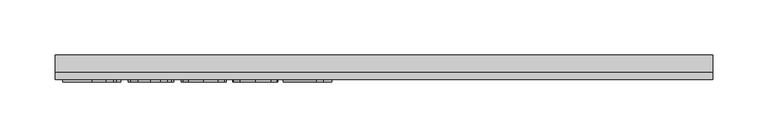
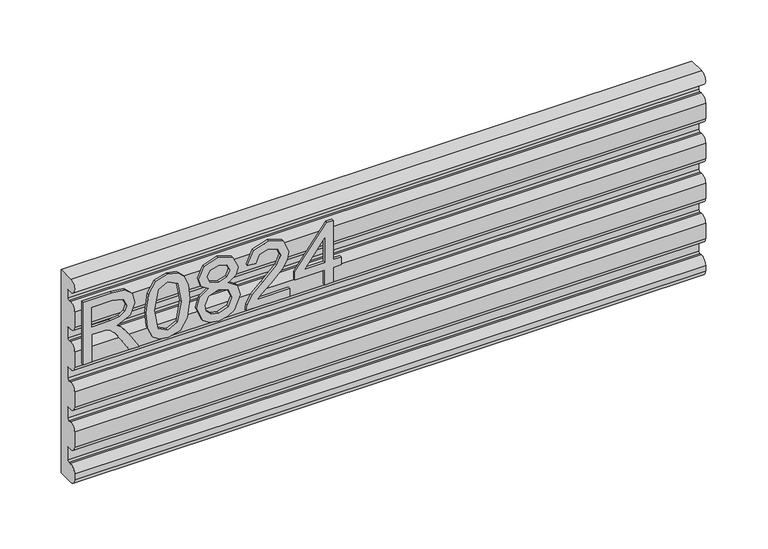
"""IFC4 building model written with IfcOpenShell, lengths in millimetres: furniture geometry."""

from ifc_helpers import new_model, si_unit, point, frame, frame_2d, origin, place, context, project, spatial, polyline, circle_curve, trimmed, segment, composite_curve, outline, extrude, source, transform, mapped, element, save


def furniture_deab35e4(model_context):
    return source(origin(), model_context, "Body", "SweptSolid", [
        extrude(outline(polyline([(882.65, -291.6115385), (882.65, -283.7961538), (910.0038462, -283.7961538), (910.0038462, -274.3627404), (909.7290865, -269.8292067), (908.2408053, -266.1123197), (904.188101, -261.9832933), (895.6094952, -256.1064904), (882.65, -247.9705529), (882.65, -238.8882212), (899.5935096, -249.3138221), (907.6378606, -255.6485577), (910.9807692, -260.0905048), (916.7965144, -247.001262), (928.0616587, -242.7653846), (937.5179688, -245.3221755), (943.4863582, -252.160637), (945.1730769, -264.6698317), (945.1730769, -291.6115385), (882.65, -291.6115385)]), holes=[polyline([(917.8192308, -283.7961538), (937.3576923, -283.7961538), (937.3576923, -264.3340144), (934.6558894, -253.8855168), (927.7716346, -250.5807692), (922.4672476, -252.3132812), (918.9259014, -257.3810697), (917.8192308, -266.303125), (917.8192308, -283.7961538)])]), frame((0.0, -24.60625, 0.0), z_axis=(0.0, 1.0, 0.0), x_axis=(0.0, 0.0, 1.0)), (0.0, 0.0, 1.0), 2.38125),
        extrude(outline(polyline([(913.4078125, -232.0192308), (898.200631, -230.4622596), (887.6262019, -225.7913462), (883.1613582, -219.6245192), (881.6730769, -211.5038462), (885.0999399, -200.0631611), (895.495012, -193.2628606), (913.4078125, -190.9884615), (928.0998197, -192.4080529), (937.3500601, -196.0715144), (943.1581731, -202.3757212), (945.1730769, -211.5038462), (941.7691106, -222.898738), (931.3969351, -229.7219351), (913.4078125, -232.0192308)]), holes=[polyline([(913.4230769, -224.2038462), (933.1752404, -220.4182692), (937.3576923, -211.5954327), (932.6104567, -202.3451923), (913.4230769, -198.8038462), (894.0296274, -202.4673077), (889.4884615, -211.5038462), (894.014363, -220.5403846), (913.4230769, -224.2038462)])]), frame((0.0, -24.60625, 0.0), z_axis=(0.0, 1.0, 0.0), x_axis=(0.0, 0.0, 1.0)), (0.0, 0.0, 1.0), 2.38125),
        extrude(outline(polyline([(917.0865385, -172.7627404), (911.4081731, -181.1887019), (901.0588942, -184.15), (887.2216947, -178.5021635), (883.0602314, -171.9613582), (881.6730769, -163.6346154), (883.0545072, -155.3078726), (887.1987981, -148.7670673), (900.8451923, -143.1192308), (910.9578726, -145.9660457), (917.0865385, -154.277524), (921.9177284, -147.3551082), (929.2828125, -145.0730769), (940.5479567, -150.2019231), (945.1730769, -163.7414663), (940.6548077, -177.1588942), (929.4965144, -182.1961538), (921.940625, -179.8835937), (917.0865385, -172.7627404)]), holes=[polyline([(901.3336538, -176.3346154), (909.6222356, -173.0298678), (912.9346154, -163.8330529), (909.5764423, -154.3691106), (901.0894231, -150.9346154), (892.7626803, -154.2622596), (889.4884615, -163.5735577), (891.0454327, -170.4120192), (895.4492188, -175.0295072), (901.3336538, -176.3346154)]), polyline([(929.2675481, -174.3807692), (934.9764423, -171.5644832), (937.3576923, -163.6346154), (934.9230168, -155.7276442), (928.9164663, -152.8884615), (923.1159856, -155.6360577), (920.75, -163.5430288), (923.13125, -171.6102764), (929.2675481, -174.3807692)])]), frame((0.0, -24.60625, 0.0), z_axis=(0.0, 1.0, 0.0), x_axis=(0.0, 0.0, 1.0)), (0.0, 0.0, 1.0), 2.38125),
        extrude(outline(polyline([(890.4653846, -96.2269231), (890.4653846, -126.9236779), (894.4417668, -123.3975962), (901.9594952, -114.406851), (912.667488, -103.2103966), (920.3302284, -98.5929087), (927.7411058, -97.2038462), (940.1663462, -102.3555889), (945.1730769, -116.3454327), (940.6700721, -130.2894832), (927.5884615, -136.2807692), (926.6115385, -128.4653846), (934.5032452, -125.1759014), (937.3576923, -116.5133413), (934.4345553, -108.201863), (927.2679087, -105.0192308), (918.4145433, -108.3926683), (905.3939904, -121.8864183), (896.3345553, -131.6709135), (888.0383413, -136.418149), (882.65, -137.2576923), (882.65, -96.2269231), (890.4653846, -96.2269231)])), frame((0.0, -24.60625, 0.0), z_axis=(0.0, 1.0, 0.0), x_axis=(0.0, 0.0, 1.0)), (0.0, 0.0, 1.0), 2.38125),
        extrude(outline(polyline([(882.65, -63.0115385), (882.65, -55.1961538), (897.3038462, -55.1961538), (897.3038462, -47.3807692), (905.1192308, -47.3807692), (905.1192308, -55.1961538), (944.1961538, -55.1961538), (944.1961538, -61.0576923), (905.1192308, -91.3423077), (897.3038462, -91.3423077), (897.3038462, -63.0115385), (882.65, -63.0115385)]), holes=[polyline([(905.1192308, -63.0115385), (905.1192308, -81.7257212), (929.2675481, -63.0115385), (905.1192308, -63.0115385)])]), frame((0.0, -24.60625, 0.0), z_axis=(0.0, 1.0, 0.0), x_axis=(0.0, 0.0, 1.0)), (0.0, 0.0, 1.0), 2.38125),
        extrude(outline(composite_curve([segment(polyline([(-15.8760163, 965.1962603), (0.0, 965.1987579), (0.0, 762.0024959), (-15.875, 762.0024959)]), True, "CONTINUOUS"), segment(trimmed(circle_curve(frame_2d((-15.875, 768.3499997)), 6.3475038), [point((-15.875, 762.0024959))], [point((-22.2225037, 768.3499997))], False, "CARTESIAN"), True, "CONTINUOUS"), segment(polyline([(-22.2225037, 768.3499997), (-22.2225037, 774.1565144)]), True, "CONTINUOUS"), segment(trimmed(circle_curve(frame_2d((-15.8749436, 774.1565144)), 6.3475601), [point((-22.2225037, 774.1565144))], [point((-15.0857075, 780.4548178))], False, "CARTESIAN"), True, "CONTINUOUS"), segment(trimmed(circle_curve(frame_2d((-1.1337042, 863.6935017)), 84.3998631), [point((-15.0857075, 780.4548178))], [point((-12.9059563, 780.1186791))], True, "CARTESIAN"), True, "CONTINUOUS"), segment(trimmed(circle_curve(frame_2d((-12.700446, 781.6924586)), 1.5871409), [point((-12.9059563, 780.1186791))], [point((-11.1133051, 781.6924586))], True, "CARTESIAN"), True, "CONTINUOUS"), segment(polyline([(-11.1133051, 781.6924586), (-11.1133051, 793.7069593)]), True, "CONTINUOUS"), segment(trimmed(circle_curve(frame_2d((-12.6993283, 793.7069593)), 1.5860232), [point((-11.1133051, 793.7069593))], [point((-12.9060069, 795.2794584))], True, "CARTESIAN"), True, "CONTINUOUS"), segment(trimmed(circle_curve(frame_2d((-1.1352938, 711.7058353)), 84.3984607), [point((-12.9060069, 795.2794584))], [point((-15.0903111, 794.942592))], True, "CARTESIAN"), True, "CONTINUOUS"), segment(trimmed(circle_curve(frame_2d((-15.8834296, 801.2469395)), 6.3540408), [point((-15.0903111, 794.942592))], [point((-22.225, 800.8490464))], False, "CARTESIAN"), True, "CONTINUOUS"), segment(polyline([(-22.225, 800.8490464), (-22.225, 816.2587238)]), True, "CONTINUOUS"), segment(trimmed(circle_curve(frame_2d((-15.8833926, 815.8608997)), 6.3540734), [point((-22.225, 816.2587238))], [point((-15.0903341, 822.1652876))], False, "CARTESIAN"), True, "CONTINUOUS"), segment(trimmed(circle_curve(frame_2d((-1.1353844, 905.4020955)), 84.3985), [point((-15.0903341, 822.1652876))], [point((-12.9062753, 821.8284577))], True, "CARTESIAN"), True, "CONTINUOUS"), segment(trimmed(circle_curve(frame_2d((-12.6998122, 823.4006216)), 1.5856628), [point((-12.9062753, 821.8284577))], [point((-11.1141494, 823.4006216))], True, "CARTESIAN"), True, "CONTINUOUS"), segment(polyline([(-11.1141494, 823.4006216), (-11.1141494, 833.7966127)]), True, "CONTINUOUS"), segment(trimmed(circle_curve(frame_2d((-12.6998093, 833.7966127)), 1.5856599), [point((-11.1141494, 833.7966127))], [point((-12.9062754, 835.3687733))], True, "CARTESIAN"), True, "CONTINUOUS"), segment(trimmed(circle_curve(frame_2d((-1.1353888, 751.7951397)), 84.3984953), [point((-12.9062754, 835.3687733))], [point((-15.0903465, 835.0319415))], True, "CARTESIAN"), True, "CONTINUOUS"), segment(trimmed(circle_curve(frame_2d((-15.8834158, 841.3363673)), 6.3541124), [point((-15.0903465, 835.0319415))], [point((-22.2250421, 840.9382203))], False, "CARTESIAN"), True, "CONTINUOUS"), segment(polyline([(-22.2250421, 840.9382203), (-22.2250421, 856.3483319)]), True, "CONTINUOUS"), segment(trimmed(circle_curve(frame_2d((-15.8834158, 855.9501848)), 6.3541124), [point((-22.2250421, 856.3483319))], [point((-15.0903468, 862.2546107))], False, "CARTESIAN"), True, "CONTINUOUS"), segment(trimmed(circle_curve(frame_2d((-1.1353891, 945.4914132)), 84.398496), [point((-15.0903468, 862.2546107))], [point((-12.9062764, 861.9177789))], True, "CARTESIAN"), True, "CONTINUOUS"), segment(trimmed(circle_curve(frame_2d((-12.6998106, 863.4899388)), 1.5856591), [point((-12.9062764, 861.9177789))], [point((-11.1141515, 863.4899388))], True, "CARTESIAN"), True, "CONTINUOUS"), segment(polyline([(-11.1141515, 863.4899388), (-11.1141515, 873.8860943)]), True, "CONTINUOUS"), segment(trimmed(circle_curve(frame_2d((-12.6998106, 873.8860943)), 1.5856591), [point((-11.1141515, 873.8860943))], [point((-12.9062762, 875.4582542))], True, "CARTESIAN"), True, "CONTINUOUS"), segment(trimmed(circle_curve(frame_2d((-1.135389, 791.8846199)), 84.398496), [point((-12.9062762, 875.4582542))], [point((-15.0903467, 875.1214224))], True, "CARTESIAN"), True, "CONTINUOUS"), segment(trimmed(circle_curve(frame_2d((-15.8834159, 881.4258482)), 6.3541123), [point((-15.0903467, 875.1214224))], [point((-22.225042, 881.0277013))], False, "CARTESIAN"), True, "CONTINUOUS"), segment(polyline([(-22.225042, 881.0277013), (-22.225042, 896.4379807)]), True, "CONTINUOUS"), segment(trimmed(circle_curve(frame_2d((-15.8834159, 896.0398338)), 6.3541123), [point((-22.225042, 896.4379807))], [point((-15.0903468, 902.3442596))], False, "CARTESIAN"), True, "CONTINUOUS"), segment(trimmed(circle_curve(frame_2d((-1.1353891, 985.5810621)), 84.3984961), [point((-15.0903468, 902.3442596))], [point((-12.9062764, 902.0074278))], True, "CARTESIAN"), True, "CONTINUOUS"), segment(trimmed(circle_curve(frame_2d((-12.6998107, 903.5795876)), 1.585659), [point((-12.9062764, 902.0074278))], [point((-11.1141517, 903.5795876))], True, "CARTESIAN"), True, "CONTINUOUS"), segment(polyline([(-11.1141517, 903.5795876), (-11.1141517, 913.9755748)]), True, "CONTINUOUS"), segment(trimmed(circle_curve(frame_2d((-12.6998103, 913.9755748)), 1.5856586), [point((-11.1141517, 913.9755748))], [point((-12.906276, 915.5477342))], True, "CARTESIAN"), True, "CONTINUOUS"), segment(trimmed(circle_curve(frame_2d((-1.1353891, 831.9741004)), 84.3984955), [point((-12.906276, 915.5477342))], [point((-15.0903471, 915.2109023))], True, "CARTESIAN"), True, "CONTINUOUS"), segment(trimmed(circle_curve(frame_2d((-15.8834165, 921.5153276)), 6.3541119), [point((-15.0903471, 915.2109023))], [point((-22.225042, 921.1171779))], False, "CARTESIAN"), True, "CONTINUOUS"), segment(polyline([(-22.225042, 921.1171779), (-22.225042, 936.5272397)]), True, "CONTINUOUS"), segment(trimmed(circle_curve(frame_2d((-15.8834716, 936.1290423)), 6.3540599), [point((-22.225042, 936.5272397))], [point((-15.090343, 942.4334077))], False, "CARTESIAN"), True, "CONTINUOUS"), segment(trimmed(circle_curve(frame_2d((-1.1352996, 1025.6702803)), 84.3985793), [point((-15.090343, 942.4334077))], [point((-12.9060294, 942.0965398))], True, "CARTESIAN"), True, "CONTINUOUS"), segment(trimmed(circle_curve(frame_2d((-12.6993505, 943.6690306)), 1.5860151), [point((-12.9060294, 942.0965398))], [point((-11.1133354, 943.6690306))], True, "CARTESIAN"), True, "CONTINUOUS"), segment(polyline([(-11.1133354, 943.6690306), (-11.1133354, 951.3150339)]), True, "CONTINUOUS"), segment(trimmed(circle_curve(frame_2d((-12.7004555, 951.3150339)), 1.5871201), [point((-11.1133354, 951.3150339))], [point((-12.9059726, 952.8887915))], True, "CARTESIAN"), True, "CONTINUOUS"), segment(trimmed(circle_curve(frame_2d((-1.1337141, 869.3138651)), 84.3999668), [point((-12.9059726, 952.8887915))], [point((-15.0857569, 952.5526475))], True, "CARTESIAN"), True, "CONTINUOUS"), segment(trimmed(circle_curve(frame_2d((-15.8750176, 958.8498197)), 6.3464407), [point((-15.0857569, 952.5526475))], [point((-15.8760163, 965.1962603))], False, "CARTESIAN"), True, "CONTINUOUS")], self_intersect=False)), frame((-298.45, 0.0, 0.0), z_axis=(1.0, 0.0, 0.0), x_axis=(0.0, 1.0, 0.0)), (0.0, 0.0, 1.0), 596.9),
    ])


if __name__ == "__main__":
    model = new_model("IFC4")
    model_context = context("Model", 3, world=origin())
    ifc_project = project(units=[si_unit("LENGTHUNIT", "METRE", prefix="MILLI")], contexts=[model_context])
    site = spatial("IfcSite", under=ifc_project)
    building = spatial("IfcBuilding", under=site)
    placement = place(None, origin())
    furniture_shape = furniture_deab35e4(model_context)
    element("IfcFurniture", 1, ObjectType="HermanMiller_Ethospace_E1425_RailTile : 08\"H x 24\"W", at=placement, inside=building, context=model_context, shape_type="MappedRepresentation", body=[
        mapped(furniture_shape, transform((0.0, 0.0, 0.0), x_axis=(1.0, 0.0, 0.0), y_axis=(0.0, 1.0, 0.0), z_axis=(0.0, 0.0, 1.0))),
    ])
    save(model, "model.ifc")
